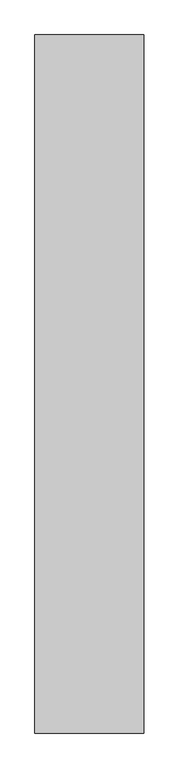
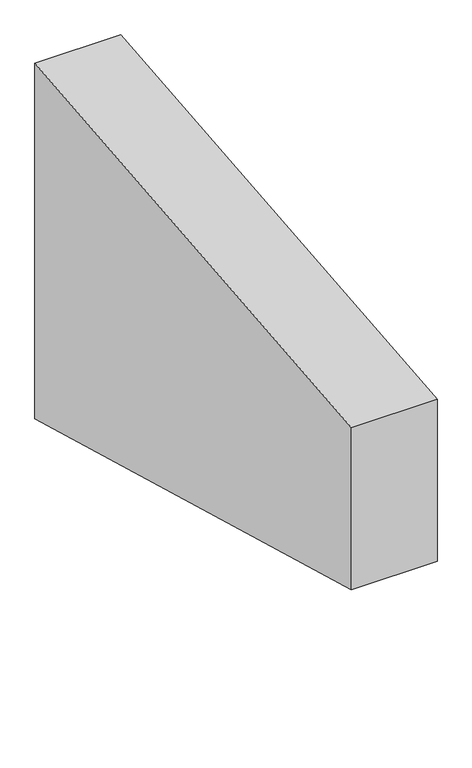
"""IFC4 building model written with IfcOpenShell, lengths in millimetres: beam geometry, mensola2 : mensola."""

from ifc_helpers import new_model, si_unit, frame, origin, place, context, project, spatial, polyline, outline, extrude, source, transform, mapped, element, save


def beam_6ca558f2(model_context):
    return source(origin(), model_context, "Body", "SweptSolid", [
        extrude(outline(polyline([(23913.3920265, -5124.2740657), (23913.3920265, -4624.2740657), (25513.3893107, -4470.0), (25513.3893107, -5566.6914971), (23913.3920265, -5124.2740657)])), frame((-10276.2776146, 0.0, 0.0), z_axis=(1.0, 0.0, 0.0), x_axis=(0.0, 1.0, 0.0)), (0.0, 0.0, 1.0), 250.0),
    ])


if __name__ == "__main__":
    model = new_model("IFC4")
    model_context = context("Model", 3, world=origin())
    ifc_project = project(units=[si_unit("LENGTHUNIT", "METRE", prefix="MILLI")], contexts=[model_context])
    site = spatial("IfcSite", under=ifc_project)
    building = spatial("IfcBuilding", under=site)
    placement = place(None, origin())
    beam_shape = beam_6ca558f2(model_context)
    element("IfcBeam", 1, ObjectType="mensola2 : mensola", at=placement, inside=building, context=model_context, shape_type="MappedRepresentation", body=[
        mapped(beam_shape, transform((0.0, 0.0, 0.0), x_axis=(1.0, 0.0, 0.0), y_axis=(0.0, 1.0, 0.0), z_axis=(0.0, 0.0, 1.0))),
    ])
    save(model, "model.ifc")
